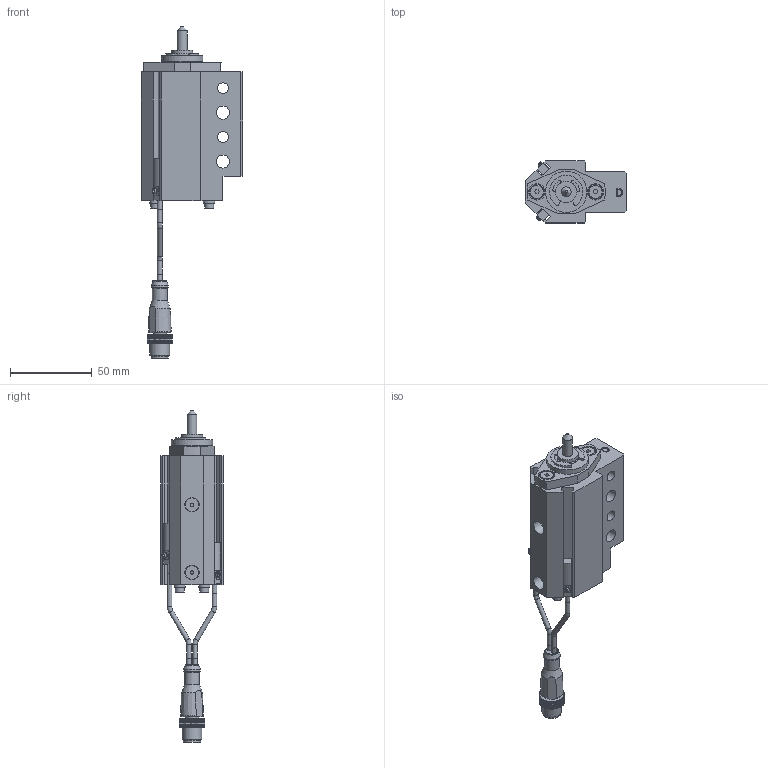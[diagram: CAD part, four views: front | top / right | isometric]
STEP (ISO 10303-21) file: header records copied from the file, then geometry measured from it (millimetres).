
FILE_DESCRIPTION(/* description */ ('NAAMS FLOATING MICRO PIN'),/* implementation_level */ '2;1');
FILE_NAME(/* name */ 'C:\Vault Workspace\CAD\Welker\Shot Pin\NMP\NMP060012DANL3.stp',/* time_stamp */ '2021-01-27T08:28:09-05:00',/* author */ ('KLabrecque'),/* organization */ (''),/* preprocessor_version */ 'ST-DEVELOPER v18.1',/* originating_system */ 'Autodesk Inventor 2020',/* authorisation */ '');
FILE_SCHEMA (('AUTOMOTIVE_DESIGN { 1 0 10303 214 3 1 1 }'));
Length unit declared in the file: millimetre
Products named in the file (16): NMPL01; NMP L3 SWITCH; L3 Connector; L3 Sensor 1; L3 Sensor 2; L3 Sensor cable; L3 Sensor cable 2; M3X0.5-8 SHCS; NL3; NMPE06; NMPE03; NMPE05-DIA-LENGTH; 985432A218; NMPE01D-PORT; RMPE02; M5X5 SHOULDER
Assembly tree (22 placements, depth 3):
  NMPL01
    NMP L3 SWITCH
      L3 Connector
      L3 Sensor 1
      L3 Sensor 2
      L3 Sensor cable
      L3 Sensor cable 2
    M3X0.5-8 SHCS  x4
    NL3  x4
    NMPE06
    NMPE03
    NMPE05-DIA-LENGTH
    985432A218
    NMPE01D-PORT
    RMPE02
    M5X5 SHOULDER  x2
Bounding box: 62 x 38.1 x 203.54 mm (x, y, z)
Volume: 111205.9 mm3; surface area: 44858.7 mm2
Topology: 21 solids, 21 shells, 747 faces, 2022 edges, 1352 vertices
Faces by surface type: plane 548, cylinder 144, cone 31, torus 11, bspline 10, sphere 3
Full cylindrical faces by diameter (mm): 2 x2, 2.459 x4, 2.9 x10, 3 x5, 3.242 x2, 3.4 x4, 4 x2, 5 x6, 5.5 x4, 6 x1, 6.647 x2, 7 x4, 8 x2, 8.3 x2, 9 x3, 10 x3, 10.4 x1, 10.5 x1, 12 x1, 13 x3, 16 x2, 19.05 x3, 21 x1, 22.5 x1, 23.672 x1, 24 x1, 25.4 x1, 25.5 x1, 26.5 x1, 28.677 x1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
Entity records: 22825 total; most frequent: CARTESIAN_POINT 4228, ORIENTED_EDGE 3742, DIRECTION 3699, EDGE_CURVE 1871, LINE 1375, VECTOR 1375, VERTEX_POINT 1257, AXIS2_PLACEMENT_3D 1162
